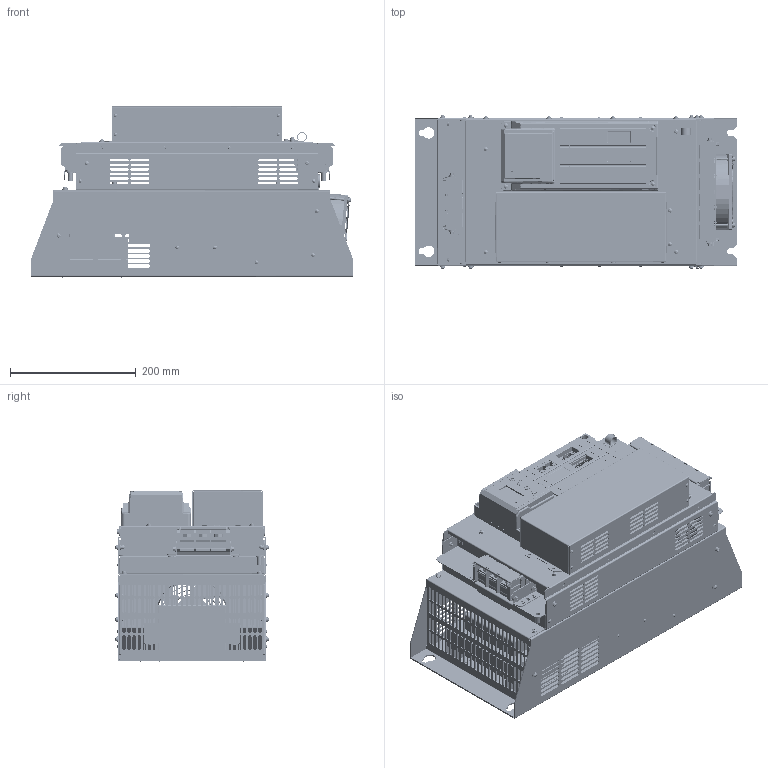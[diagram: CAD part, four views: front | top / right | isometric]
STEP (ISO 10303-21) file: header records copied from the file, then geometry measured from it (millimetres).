
FILE_DESCRIPTION(/* description */ (''),/* implementation_level */ '2;1');
FILE_NAME(/* name */ 'DS5C1-422P0-PTA+DS5C1-432P0-PTA-官网图',/* time_stamp */ '2023-03-16T09:33:22+08:00',/* author */ (''),/* organization */ (''),/* preprocessor_version */ 'ST-DEVELOPER v15',/* originating_system */ '',/* authorisation */ '');
FILE_SCHEMA (('AUTOMOTIVE_DESIGN'));
Products named in the file (1): Document
Bounding box: 510 x 244.39 x 271.6 mm (x, y, z)
Surface area: 3303640.4 mm2 (no closed solid volume)
Topology: 0 solids, 11595 shells, 11597 faces, 61734 edges, 61665 vertices
Faces by surface type: bspline 6051, plane 5546
Entity records: 723368 total; most frequent: CARTESIAN_POINT 409416, ORIENTED_EDGE 61674, EDGE_CURVE 61670, VERTEX_POINT 61665, B_SPLINE_CURVE_WITH_KNOTS 39580, EDGE_LOOP 13153, ADVANCED_FACE 11597, FACE_OUTER_BOUND 11597
